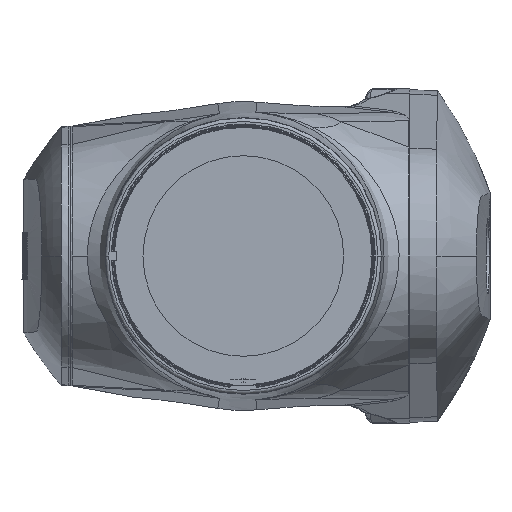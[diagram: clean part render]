
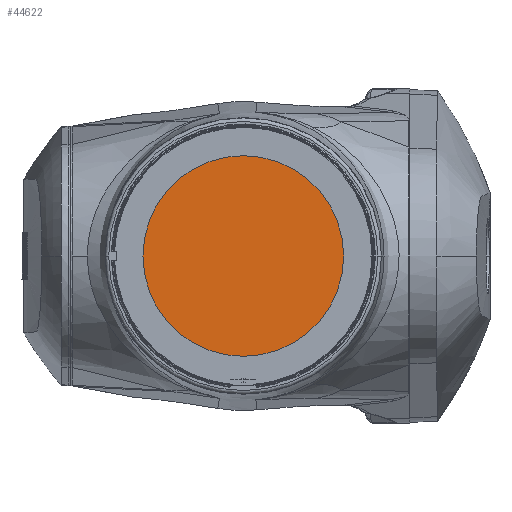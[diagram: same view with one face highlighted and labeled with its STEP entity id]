
A CAD part, left-side view. The second image highlights one B-rep face of the part: STEP entity #44622.
In plain terms, the highlighted planar face has unit normal (-1, 0, 0).
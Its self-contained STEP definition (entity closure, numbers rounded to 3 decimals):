
#2641 = ORIENTED_EDGE ( 'NONE', *, *, #42170, .F. ) ;
#6011 = CARTESIAN_POINT ( 'NONE',  ( 117., 0., 2266. ) ) ;
#9313 = CARTESIAN_POINT ( 'NONE',  ( 117., -85., 2266. ) ) ;
#10024 = EDGE_CURVE ( 'NONE', #38084, #25990, #29559, .T. ) ;
#10258 = PLANE ( 'NONE',  #18117 ) ;
#13542 = EDGE_LOOP ( 'NONE', ( #18851, #2641 ) ) ;
#16815 = CARTESIAN_POINT ( 'NONE',  ( 117., 85., 2266. ) ) ;
#17321 = FACE_OUTER_BOUND ( 'NONE', #13542, .T. ) ;
#17908 = AXIS2_PLACEMENT_3D ( 'NONE', #42628, #28227, #38531 ) ;
#18117 = AXIS2_PLACEMENT_3D ( 'NONE', #20524, #38009, #20763 ) ;
#18851 = ORIENTED_EDGE ( 'NONE', *, *, #10024, .F. ) ;
#20524 = CARTESIAN_POINT ( 'NONE',  ( 117., 0., 2375.728 ) ) ;
#20763 = DIRECTION ( 'NONE',  ( 0., -1., 0. ) ) ;
#22290 = CIRCLE ( 'NONE', #17908, 85. ) ;
#25990 = VERTEX_POINT ( 'NONE', #16815 ) ;
#26479 = DIRECTION ( 'NONE',  ( 1., 0., 0. ) ) ;
#28227 = DIRECTION ( 'NONE',  ( 1., 0., 0. ) ) ;
#29559 = CIRCLE ( 'NONE', #36872, 85. ) ;
#36872 = AXIS2_PLACEMENT_3D ( 'NONE', #6011, #26479, #37399 ) ;
#37399 = DIRECTION ( 'NONE',  ( 0., -1., 0. ) ) ;
#38009 = DIRECTION ( 'NONE',  ( -1., 0., 0. ) ) ;
#38084 = VERTEX_POINT ( 'NONE', #9313 ) ;
#38531 = DIRECTION ( 'NONE',  ( 0., -1., 0. ) ) ;
#42170 = EDGE_CURVE ( 'NONE', #25990, #38084, #22290, .T. ) ;
#42628 = CARTESIAN_POINT ( 'NONE',  ( 117., 0., 2266. ) ) ;
#44622 = ADVANCED_FACE ( 'NONE', ( #17321 ), #10258, .T. ) ;
